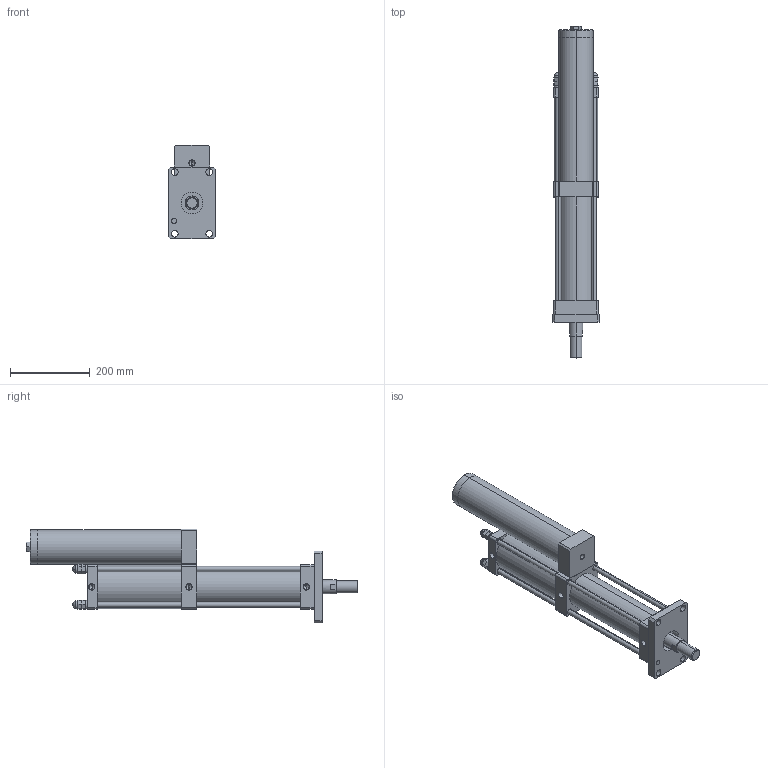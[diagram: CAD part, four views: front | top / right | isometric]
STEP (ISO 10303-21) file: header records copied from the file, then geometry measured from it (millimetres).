
FILE_DESCRIPTION (( 'STEP AP203' ), '1' );
FILE_NAME ('CPT-80-200-10-8T.STEP', '2016-03-11T03:17:03', ( 'WIN' ), ( '' ), 'SwSTEP 2.0', 'SolidWorks 2014', '' );
FILE_SCHEMA (( 'CONFIG_CONTROL_DESIGN' ));
Length unit declared in the file: millimetre
Products named in the file (1): CPT-80-200-10-8T
Bounding box: 118 x 835 x 235 mm (x, y, z)
Volume: 6217659.3 mm3; surface area: 719981.2 mm2
Topology: 17 solids, 17 shells, 389 faces, 959 edges, 560 vertices
Faces by surface type: plane 181, cylinder 90, bspline 48, torus 46, cone 24
Entity records: 12577 total; most frequent: CARTESIAN_POINT 3667, DIRECTION 1874, ORIENTED_EDGE 1786, EDGE_CURVE 893, AXIS2_PLACEMENT_3D 687, VERTEX_POINT 560, VECTOR 500, LINE 500
